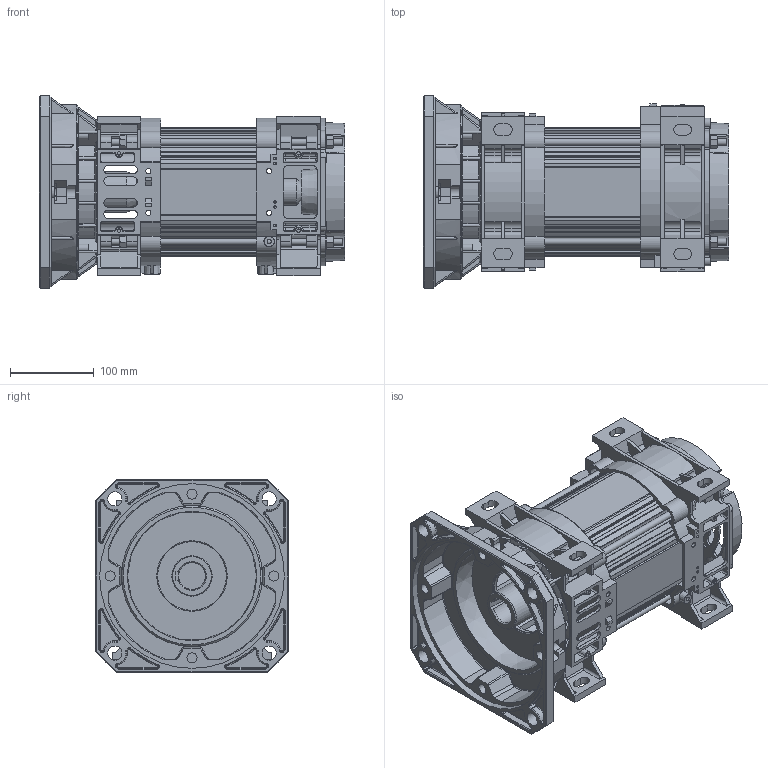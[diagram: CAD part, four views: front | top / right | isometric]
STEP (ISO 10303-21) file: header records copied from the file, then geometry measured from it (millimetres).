
FILE_DESCRIPTION(/* description */ ('Motore Tipo S46 Fl.220 F32-H135 NO Volano NO Piedi'),/* implementation_level */ '2;1');
FILE_NAME(/* name */ 'Y:\ServerTecnico\Mockup Motori x Sito Elmo\Mockup Tipo S46 Size 1 FL220 F32-H135 NO Volano.stp',/* time_stamp */ '2017-05-26T10:10:03+02:00',/* author */ ('aparmini'),/* organization */ (''),/* preprocessor_version */ 'ST-DEVELOPER v16.5',/* originating_system */ 'Autodesk Inventor 2017',/* authorisation */ '');
FILE_SCHEMA (('AUTOMOTIVE_DESIGN { 1 0 10303 214 3 1 1 }'));
Products named in the file (10): Mockup Tipo S46 Size 1 FL220 F32-H135 NO Volano; Mockup Statore Size 1 - F32-H135 NO Volano; TGS10; FA1D220NA-01-07-2015; CA1VS-DSEMI 220 01-07-2015; SEMI FA1SD220N; Mockup CP1XD040N; TI08ML275; UNI 5587 - M8; DIN 125-2 - B 8,4
Assembly tree (22 placements, depth 3):
  Mockup Tipo S46 Size 1 FL220 F32-H135 NO Volano
    Mockup Statore Size 1 - F32-H135 NO Volano
    TGS10
    FA1D220NA-01-07-2015
      CA1VS-DSEMI 220 01-07-2015
      SEMI FA1SD220N
    Mockup CP1XD040N
    UNI 5587 - M8  x8
    TI08ML275  x4
    DIN 125-2 - B 8,4  x4
Bounding box: 364 x 230 x 230 mm (x, y, z)
Volume: 4328554.8 mm3; surface area: 847551.4 mm2
Topology: 21 solids, 21 shells, 2712 faces, 7241 edges, 4577 vertices
Faces by surface type: plane 1098, cylinder 982, cone 289, bspline 223, torus 104, sphere 16
Full cylindrical faces by diameter (mm): 3.2 x5, 4 x8, 4.917 x2, 5 x4, 6.2 x8, 6.647 x8, 8 x4, 8.4 x4, 10 x8, 12 x8, 16 x4, 17 x5, 21 x1, 32 x2, 38 x1, 48 x1, 82 x2, 220 x1
Entity records: 86742 total; most frequent: CARTESIAN_POINT 22463, DIRECTION 13630, ORIENTED_EDGE 13446, EDGE_CURVE 6711, AXIS2_PLACEMENT_3D 5026, VERTEX_POINT 4328, LINE 3578, VECTOR 3578
